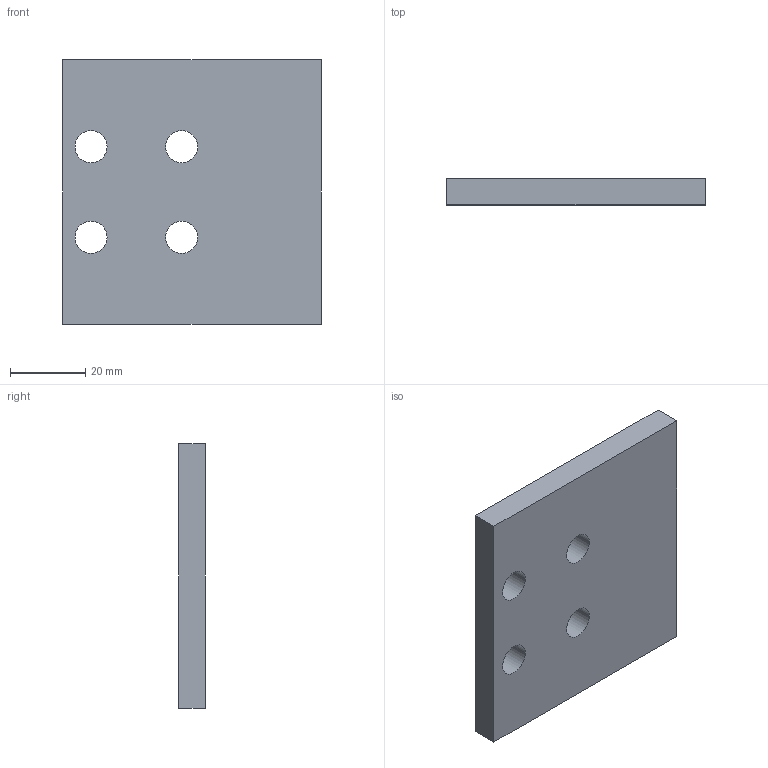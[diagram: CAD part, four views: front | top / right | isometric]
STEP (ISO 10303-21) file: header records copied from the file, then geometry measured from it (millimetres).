
FILE_DESCRIPTION( ( '' ), '1' );
FILE_NAME( 'E:/04 嬴檜蠱滌/0404 ZIMMER/040414 ZIMMER CAD download/Adapt plate/PLK for LKP, LKPS/PLK35-7.stp', '2020-04-16T10:19:53', ( '' ), ( '' ), ' ', ' ', ' ' );
FILE_SCHEMA( ( 'automotive_design' ) );
Length unit declared in the file: millimetre
Products named in the file (1): 1
Bounding box: 68.5 x 7 x 70 mm (x, y, z)
Volume: 31976.1 mm3; surface area: 11822.7 mm2
Topology: 1 solids, 1 shells, 14 faces, 36 edges, 24 vertices
Faces by surface type: cylinder 8, plane 6
Entity records: 888 total; most frequent: DIRECTION 82, STYLED_ITEM 75, PRESENTATION_STYLE_ASSIGNMENT 75, CARTESIAN_POINT 75, COLOUR_RGB 75, ORIENTED_EDGE 72, EDGE_CURVE 36, CURVE_STYLE 36
